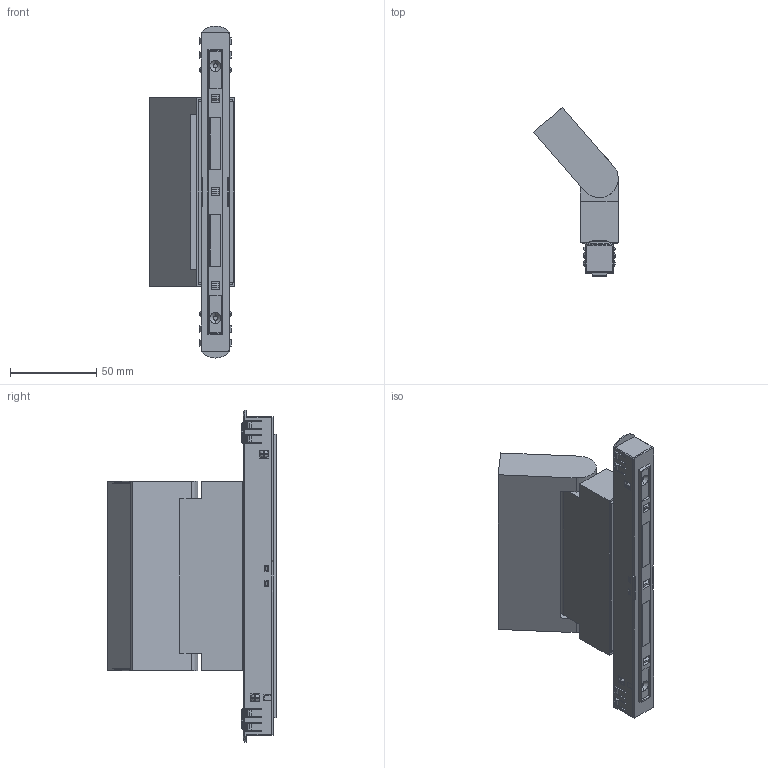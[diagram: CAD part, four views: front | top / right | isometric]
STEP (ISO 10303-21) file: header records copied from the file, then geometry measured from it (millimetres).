
FILE_DESCRIPTION (( 'STEP AP203' ), '1' );
FILE_NAME ('410092.STEP', '2025-04-02T02:00:36', ( '微软用户' ), ( '微软中国' ), 'SwSTEP 2.0', 'SolidWorks 2020', '' );
FILE_SCHEMA (( 'CONFIG_CONTROL_DESIGN' ));
Length unit declared in the file: millimetre
Products named in the file (16): MANIFOLD_SOLID_BREP_1155; ZHIJIA_DUANKUAN_SHANGGAI; MANIFOLD_SOLID_BREP_1156; ZHIJIA_DUANKUAN; 10-07-WJ1; ZHIJIA_0_105MM; MANIFOLD_SOLID_BREP_1147; 10-08-G1_1; 108X19MM_PMMA; MANIFOLD_SOLID_BREP_1148; 10-10-gk-2; MANIFOLD_SOLID_BREP_1145; MANIFOLD_SOLID_BREP_1149; 410092; MANIFOLD_SOLID_BREP_1146; MANIFOLD_SOLID_BREP_1150
Assembly tree (15 placements, depth 3):
  410092
    ZHIJIA_DUANKUAN_SHANGGAI
    ZHIJIA_DUANKUAN
    ZHIJIA_0_105MM
    108X19MM_PMMA
    10-10-gk-2
      MANIFOLD_SOLID_BREP_1145
      MANIFOLD_SOLID_BREP_1146
      MANIFOLD_SOLID_BREP_1147
      MANIFOLD_SOLID_BREP_1148
      MANIFOLD_SOLID_BREP_1149
      MANIFOLD_SOLID_BREP_1150
      MANIFOLD_SOLID_BREP_1155
      MANIFOLD_SOLID_BREP_1156
      10-07-WJ1
      10-08-G1_1
Bounding box: 49.09 x 98.18 x 192.8 mm (x, y, z)
Volume: 105686.3 mm3; surface area: 96394.1 mm2
Topology: 18 solids, 18 shells, 1311 faces, 3615 edges, 2366 vertices
Faces by surface type: plane 911, cylinder 243, bspline 108, cone 49
Entity records: 54131 total; most frequent: CARTESIAN_POINT 20478, ORIENTED_EDGE 7230, DIRECTION 5629, EDGE_CURVE 3615, LINE 2525, VECTOR 2525, VERTEX_POINT 2366, AXIS2_PLACEMENT_3D 1552
